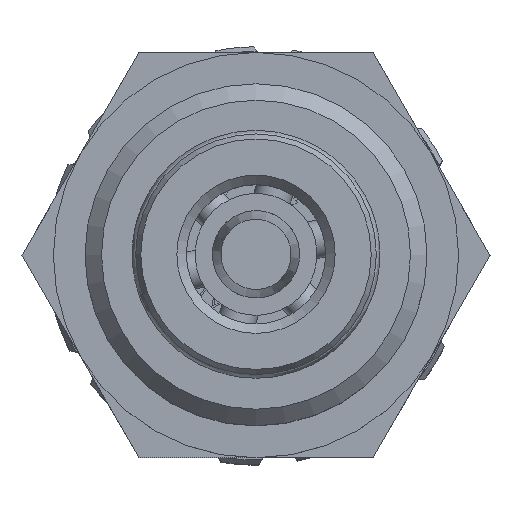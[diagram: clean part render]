
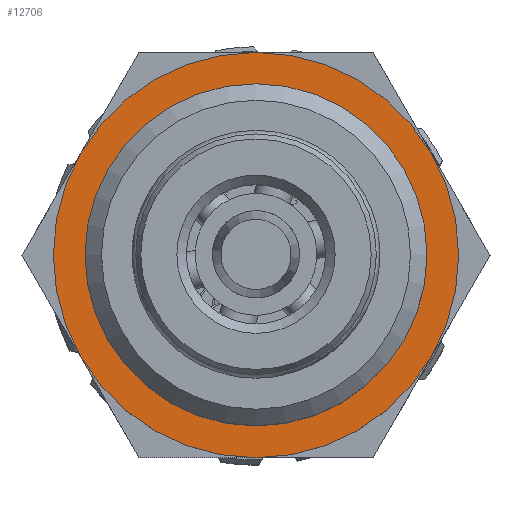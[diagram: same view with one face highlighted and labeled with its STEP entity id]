
A CAD part, top view. The second image highlights one B-rep face of the part: STEP entity #12706.
In plain terms, the highlighted planar face has unit normal (0, 0, 1).
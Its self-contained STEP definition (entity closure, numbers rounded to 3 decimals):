
#1737 = VERTEX_POINT ( 'NONE', #21516 ) ;
#3062 = EDGE_LOOP ( 'NONE', ( #13264 ) ) ;
#3261 = PLANE ( 'NONE',  #13808 ) ;
#4452 = DIRECTION ( 'NONE',  ( 0., 0., 1. ) ) ;
#5070 = ORIENTED_EDGE ( 'NONE', *, *, #21578, .F. ) ;
#5595 = EDGE_LOOP ( 'NONE', ( #5070 ) ) ;
#6866 = DIRECTION ( 'NONE',  ( 0., 0., 1. ) ) ;
#7908 = AXIS2_PLACEMENT_3D ( 'NONE', #16061, #4452, #18038 ) ;
#8308 = CIRCLE ( 'NONE', #13801, 16. ) ;
#10466 = VERTEX_POINT ( 'NONE', #21841 ) ;
#11045 = CARTESIAN_POINT ( 'NONE',  ( 0., 0., 9. ) ) ;
#12282 = EDGE_CURVE ( 'NONE', #1737, #1737, #8308, .T. ) ;
#12706 = ADVANCED_FACE ( 'NONE', ( #14647, #19776 ), #3261, .T. ) ;
#12973 = DIRECTION ( 'NONE',  ( 1., 0., 0. ) ) ;
#13264 = ORIENTED_EDGE ( 'NONE', *, *, #12282, .T. ) ;
#13801 = AXIS2_PLACEMENT_3D ( 'NONE', #18481, #6866, #20385 ) ;
#13808 = AXIS2_PLACEMENT_3D ( 'NONE', #11045, #24523, #12973 ) ;
#14647 = FACE_OUTER_BOUND ( 'NONE', #3062, .T. ) ;
#16061 = CARTESIAN_POINT ( 'NONE',  ( 0., 0., 9. ) ) ;
#18038 = DIRECTION ( 'NONE',  ( 1., 0., 0. ) ) ;
#18220 = CIRCLE ( 'NONE', #7908, 12. ) ;
#18481 = CARTESIAN_POINT ( 'NONE',  ( 0., 0., 9. ) ) ;
#19776 = FACE_BOUND ( 'NONE', #5595, .T. ) ;
#20385 = DIRECTION ( 'NONE',  ( 1., 0., 0. ) ) ;
#21516 = CARTESIAN_POINT ( 'NONE',  ( 16., 0., 9. ) ) ;
#21578 = EDGE_CURVE ( 'NONE', #10466, #10466, #18220, .T. ) ;
#21841 = CARTESIAN_POINT ( 'NONE',  ( 12., 0., 9. ) ) ;
#24523 = DIRECTION ( 'NONE',  ( 0., 0., 1. ) ) ;
